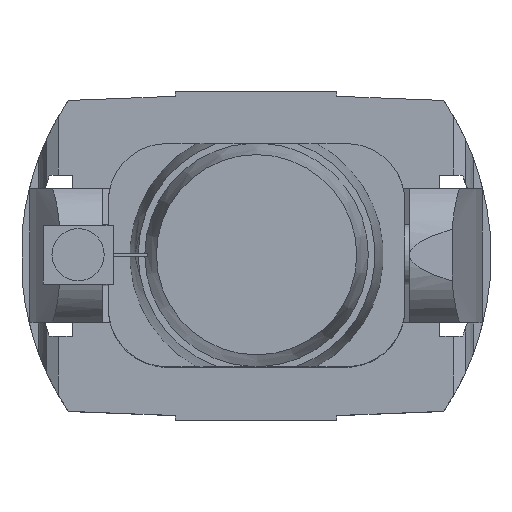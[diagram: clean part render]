
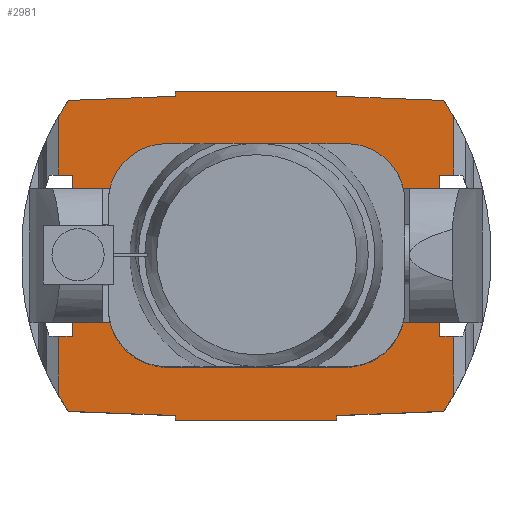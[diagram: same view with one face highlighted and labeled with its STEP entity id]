
A CAD part, top view. The second image highlights one B-rep face of the part: STEP entity #2981.
In plain terms, the highlighted planar face has unit normal (0, 0, 1).
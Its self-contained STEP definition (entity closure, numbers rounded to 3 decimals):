
#195=CIRCLE('',#3252,25.);
#196=CIRCLE('',#3253,286.325);
#197=CIRCLE('',#3254,286.325);
#198=CIRCLE('',#3255,286.325);
#199=CIRCLE('',#3256,286.325);
#446=ORIENTED_EDGE('',*,*,#1239,.T.);
#447=ORIENTED_EDGE('',*,*,#1240,.F.);
#448=ORIENTED_EDGE('',*,*,#1241,.F.);
#449=ORIENTED_EDGE('',*,*,#1117,.F.);
#450=ORIENTED_EDGE('',*,*,#1242,.F.);
#451=ORIENTED_EDGE('',*,*,#1243,.F.);
#452=ORIENTED_EDGE('',*,*,#1244,.F.);
#453=ORIENTED_EDGE('',*,*,#1202,.T.);
#454=ORIENTED_EDGE('',*,*,#1199,.F.);
#455=ORIENTED_EDGE('',*,*,#1190,.F.);
#456=ORIENTED_EDGE('',*,*,#1194,.T.);
#457=ORIENTED_EDGE('',*,*,#1245,.F.);
#458=ORIENTED_EDGE('',*,*,#1246,.T.);
#459=ORIENTED_EDGE('',*,*,#1247,.T.);
#460=ORIENTED_EDGE('',*,*,#1248,.T.);
#461=ORIENTED_EDGE('',*,*,#1249,.T.);
#462=ORIENTED_EDGE('',*,*,#1250,.T.);
#463=ORIENTED_EDGE('',*,*,#1251,.T.);
#464=ORIENTED_EDGE('',*,*,#1252,.T.);
#465=ORIENTED_EDGE('',*,*,#1253,.T.);
#466=ORIENTED_EDGE('',*,*,#1172,.T.);
#467=ORIENTED_EDGE('',*,*,#1176,.F.);
#468=ORIENTED_EDGE('',*,*,#1197,.F.);
#469=ORIENTED_EDGE('',*,*,#1237,.F.);
#470=ORIENTED_EDGE('',*,*,#1254,.F.);
#1117=EDGE_CURVE('',#1536,#1533,#1831,.T.);
#1172=EDGE_CURVE('',#1590,#1589,#1858,.T.);
#1176=EDGE_CURVE('',#1591,#1589,#1862,.T.);
#1190=EDGE_CURVE('',#1604,#1605,#1866,.T.);
#1194=EDGE_CURVE('',#1604,#1606,#1870,.T.);
#1197=EDGE_CURVE('',#1607,#1591,#1873,.T.);
#1199=EDGE_CURVE('',#1605,#1608,#1875,.T.);
#1202=EDGE_CURVE('',#1610,#1608,#1878,.T.);
#1237=EDGE_CURVE('',#1630,#1607,#1898,.T.);
#1239=EDGE_CURVE('',#1631,#1631,#195,.T.);
#1240=EDGE_CURVE('',#1632,#1633,#1899,.T.);
#1241=EDGE_CURVE('',#1533,#1632,#1900,.T.);
#1242=EDGE_CURVE('',#1634,#1536,#1901,.T.);
#1243=EDGE_CURVE('',#1635,#1634,#1902,.T.);
#1244=EDGE_CURVE('',#1610,#1635,#196,.T.);
#1245=EDGE_CURVE('',#1636,#1606,#1903,.T.);
#1246=EDGE_CURVE('',#1636,#1637,#197,.T.);
#1247=EDGE_CURVE('',#1637,#1638,#1904,.T.);
#1248=EDGE_CURVE('',#1638,#1639,#1905,.T.);
#1249=EDGE_CURVE('',#1639,#1640,#1906,.T.);
#1250=EDGE_CURVE('',#1640,#1641,#1907,.T.);
#1251=EDGE_CURVE('',#1641,#1642,#1908,.T.);
#1252=EDGE_CURVE('',#1642,#1643,#198,.T.);
#1253=EDGE_CURVE('',#1643,#1590,#1909,.T.);
#1254=EDGE_CURVE('',#1633,#1630,#199,.T.);
#1533=VERTEX_POINT('',#4435);
#1536=VERTEX_POINT('',#4440);
#1589=VERTEX_POINT('',#4573);
#1590=VERTEX_POINT('',#4575);
#1591=VERTEX_POINT('',#4580);
#1604=VERTEX_POINT('',#4631);
#1605=VERTEX_POINT('',#4633);
#1606=VERTEX_POINT('',#4638);
#1607=VERTEX_POINT('',#4643);
#1608=VERTEX_POINT('',#4648);
#1610=VERTEX_POINT('',#4654);
#1630=VERTEX_POINT('',#4743);
#1631=VERTEX_POINT('',#4747);
#1632=VERTEX_POINT('',#4749);
#1633=VERTEX_POINT('',#4750);
#1634=VERTEX_POINT('',#4753);
#1635=VERTEX_POINT('',#4755);
#1636=VERTEX_POINT('',#4758);
#1637=VERTEX_POINT('',#4760);
#1638=VERTEX_POINT('',#4762);
#1639=VERTEX_POINT('',#4764);
#1640=VERTEX_POINT('',#4766);
#1641=VERTEX_POINT('',#4768);
#1642=VERTEX_POINT('',#4770);
#1643=VERTEX_POINT('',#4772);
#1831=LINE('',#4441,#2081);
#1858=LINE('',#4574,#2108);
#1862=LINE('',#4581,#2112);
#1866=LINE('',#4632,#2116);
#1870=LINE('',#4639,#2120);
#1873=LINE('',#4644,#2123);
#1875=LINE('',#4647,#2125);
#1878=LINE('',#4653,#2128);
#1898=LINE('',#4742,#2148);
#1899=LINE('',#4748,#2149);
#1900=LINE('',#4751,#2150);
#1901=LINE('',#4752,#2151);
#1902=LINE('',#4754,#2152);
#1903=LINE('',#4757,#2153);
#1904=LINE('',#4761,#2154);
#1905=LINE('',#4763,#2155);
#1906=LINE('',#4765,#2156);
#1907=LINE('',#4767,#2157);
#1908=LINE('',#4769,#2158);
#1909=LINE('',#4773,#2159);
#2081=VECTOR('',#3530,1000.);
#2108=VECTOR('',#3611,1000.);
#2112=VECTOR('',#3617,1000.);
#2116=VECTOR('',#3637,1000.);
#2120=VECTOR('',#3643,1000.);
#2123=VECTOR('',#3648,1000.);
#2125=VECTOR('',#3652,1000.);
#2128=VECTOR('',#3657,1000.);
#2148=VECTOR('',#3725,1000.);
#2149=VECTOR('',#3732,1000.);
#2150=VECTOR('',#3733,1000.);
#2151=VECTOR('',#3734,1000.);
#2152=VECTOR('',#3735,1000.);
#2153=VECTOR('',#3738,1000.);
#2154=VECTOR('',#3741,1000.);
#2155=VECTOR('',#3742,1000.);
#2156=VECTOR('',#3743,1000.);
#2157=VECTOR('',#3744,1000.);
#2158=VECTOR('',#3745,1000.);
#2159=VECTOR('',#3748,1000.);
#2365=EDGE_LOOP('',(#446));
#2366=EDGE_LOOP('',(#447,#448,#449,#450,#451,#452,#453,#454,#455,#456,#457,
#458,#459,#460,#461,#462,#463,#464,#465,#466,#467,#468,#469,#470));
#2619=FACE_BOUND('',#2365,.T.);
#2620=FACE_BOUND('',#2366,.T.);
#2847=PLANE('',#3251);
#2981=ADVANCED_FACE('',(#2619,#2620),#2847,.F.);
#3251=AXIS2_PLACEMENT_3D('',#4745,#3728,#3729);
#3252=AXIS2_PLACEMENT_3D('',#4746,#3730,#3731);
#3253=AXIS2_PLACEMENT_3D('',#4756,#3736,#3737);
#3254=AXIS2_PLACEMENT_3D('',#4759,#3739,#3740);
#3255=AXIS2_PLACEMENT_3D('',#4771,#3746,#3747);
#3256=AXIS2_PLACEMENT_3D('',#4774,#3749,#3750);
#3530=DIRECTION('',(-1.,0.,0.));
#3611=DIRECTION('',(1.,0.,0.));
#3617=DIRECTION('',(0.,1.,0.));
#3637=DIRECTION('',(0.,-1.,0.));
#3643=DIRECTION('',(1.,0.,0.));
#3648=DIRECTION('',(1.,0.,0.));
#3652=DIRECTION('',(1.,0.,0.));
#3657=DIRECTION('',(0.,1.,0.));
#3725=DIRECTION('',(0.,1.,0.));
#3728=DIRECTION('',(0.,0.,-1.));
#3729=DIRECTION('',(-1.,0.,0.));
#3730=DIRECTION('',(0.,0.,-1.));
#3731=DIRECTION('',(-1.,0.,0.));
#3732=DIRECTION('',(-0.999,0.039,0.));
#3733=DIRECTION('',(0.,1.,0.));
#3734=DIRECTION('',(0.,-1.,0.));
#3735=DIRECTION('',(-0.999,-0.039,0.));
#3736=DIRECTION('',(0.,0.,-1.));
#3737=DIRECTION('',(-1.,0.,0.));
#3738=DIRECTION('',(0.,-1.,0.));
#3739=DIRECTION('',(0.,0.,1.));
#3740=DIRECTION('',(1.,0.,0.));
#3741=DIRECTION('',(-0.999,0.039,0.));
#3742=DIRECTION('',(0.,1.,0.));
#3743=DIRECTION('',(-1.,0.,0.));
#3744=DIRECTION('',(0.,-1.,0.));
#3745=DIRECTION('',(-0.999,-0.039,0.));
#3746=DIRECTION('',(0.,0.,1.));
#3747=DIRECTION('',(1.,0.,0.));
#3748=DIRECTION('',(0.,-1.,0.));
#3749=DIRECTION('',(0.,0.,-1.));
#3750=DIRECTION('',(-1.,0.,0.));
#4435=CARTESIAN_POINT('',(-83.303,-169.654,102.853));
#4440=CARTESIAN_POINT('',(83.303,-169.654,102.853));
#4441=CARTESIAN_POINT('',(-83.303,-169.654,102.853));
#4573=CARTESIAN_POINT('',(-189.287,83.367,102.853));
#4574=CARTESIAN_POINT('',(-212.646,83.367,102.853));
#4575=CARTESIAN_POINT('',(-203.675,83.367,102.853));
#4580=CARTESIAN_POINT('',(-189.287,-82.964,102.853));
#4581=CARTESIAN_POINT('',(-189.287,83.367,102.853));
#4631=CARTESIAN_POINT('',(189.287,83.367,102.853));
#4632=CARTESIAN_POINT('',(189.287,83.367,102.853));
#4633=CARTESIAN_POINT('',(189.287,-82.964,102.853));
#4638=CARTESIAN_POINT('',(203.675,83.367,102.853));
#4639=CARTESIAN_POINT('',(212.646,83.367,102.853));
#4643=CARTESIAN_POINT('',(-203.675,-82.964,102.853));
#4644=CARTESIAN_POINT('',(-212.646,-82.964,102.853));
#4647=CARTESIAN_POINT('',(212.646,-82.964,102.853));
#4648=CARTESIAN_POINT('',(203.675,-82.964,102.853));
#4653=CARTESIAN_POINT('',(203.675,-602.76,102.853));
#4654=CARTESIAN_POINT('',(203.675,-143.751,102.853));
#4742=CARTESIAN_POINT('',(-203.675,-602.76,102.853));
#4743=CARTESIAN_POINT('',(-203.675,-143.751,102.853));
#4745=CARTESIAN_POINT('',(203.675,-602.76,102.853));
#4746=CARTESIAN_POINT('',(0.,0.,102.853));
#4747=CARTESIAN_POINT('',(-25.,0.,102.853));
#4748=CARTESIAN_POINT('',(-193.314,-160.277,102.853));
#4749=CARTESIAN_POINT('',(-83.303,-164.605,102.853));
#4750=CARTESIAN_POINT('',(-193.314,-160.277,102.853));
#4751=CARTESIAN_POINT('',(-83.303,-164.605,102.853));
#4752=CARTESIAN_POINT('',(83.303,-164.605,102.853));
#4753=CARTESIAN_POINT('',(83.303,-164.605,102.853));
#4754=CARTESIAN_POINT('',(193.314,-160.277,102.853));
#4755=CARTESIAN_POINT('',(193.314,-160.277,102.853));
#4756=CARTESIAN_POINT('',(-43.959,-0.017,102.853));
#4757=CARTESIAN_POINT('',(203.675,602.76,102.853));
#4758=CARTESIAN_POINT('',(203.675,143.718,102.853));
#4759=CARTESIAN_POINT('',(-43.959,-0.017,102.853));
#4760=CARTESIAN_POINT('',(193.296,160.271,102.853));
#4761=CARTESIAN_POINT('',(193.296,160.271,102.853));
#4762=CARTESIAN_POINT('',(83.303,164.605,102.853));
#4763=CARTESIAN_POINT('',(83.303,164.605,102.853));
#4764=CARTESIAN_POINT('',(83.303,169.654,102.853));
#4765=CARTESIAN_POINT('',(-83.303,169.654,102.853));
#4766=CARTESIAN_POINT('',(-83.303,169.654,102.853));
#4767=CARTESIAN_POINT('',(-83.303,164.605,102.853));
#4768=CARTESIAN_POINT('',(-83.303,164.605,102.853));
#4769=CARTESIAN_POINT('',(-193.296,160.271,102.853));
#4770=CARTESIAN_POINT('',(-193.296,160.271,102.853));
#4771=CARTESIAN_POINT('',(43.959,-0.017,102.853));
#4772=CARTESIAN_POINT('',(-203.675,143.718,102.853));
#4773=CARTESIAN_POINT('',(-203.675,602.76,102.853));
#4774=CARTESIAN_POINT('',(43.959,-0.017,102.853));
